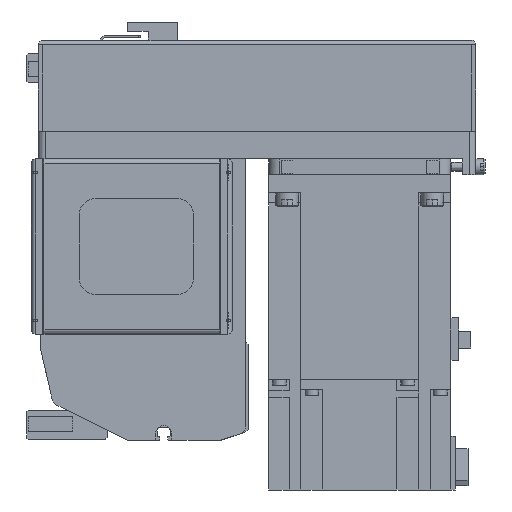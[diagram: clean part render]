
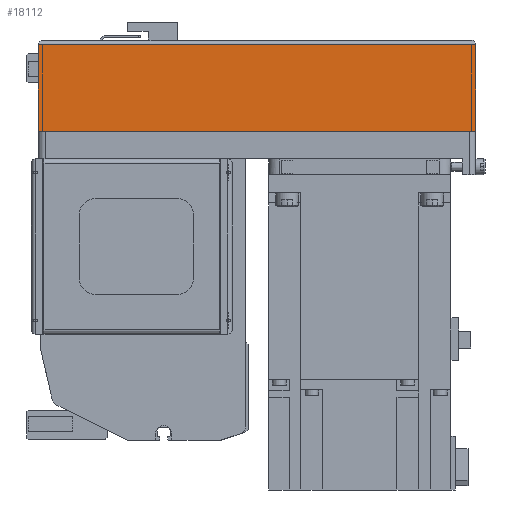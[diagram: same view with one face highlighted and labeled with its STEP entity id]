
A CAD part, left-side view. The second image highlights one B-rep face of the part: STEP entity #18112.
In plain terms, the highlighted planar face has unit normal (-1, 0, 0) as drawn and (0, -1, 0) by its records, which use the part's own axes.
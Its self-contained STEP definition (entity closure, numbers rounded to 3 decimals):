
#2838=ORIENTED_EDGE('',*,*,#7315,.F.);
#2839=ORIENTED_EDGE('',*,*,#7299,.F.);
#2840=ORIENTED_EDGE('',*,*,#7292,.T.);
#2841=ORIENTED_EDGE('',*,*,#7362,.T.);
#7292=EDGE_CURVE('',#9705,#9704,#11560,.T.);
#7299=EDGE_CURVE('',#9705,#9711,#11567,.T.);
#7315=EDGE_CURVE('',#9711,#9725,#11583,.T.);
#7362=EDGE_CURVE('',#9704,#9725,#11604,.T.);
#9704=VERTEX_POINT('',#27811);
#9705=VERTEX_POINT('',#27813);
#9711=VERTEX_POINT('',#27828);
#9725=VERTEX_POINT('',#27861);
#11560=LINE('',#27812,#13216);
#11567=LINE('',#27827,#13223);
#11583=LINE('',#27860,#13239);
#11604=LINE('',#27941,#13260);
#13216=VECTOR('',#22252,1000.);
#13223=VECTOR('',#22263,1000.);
#13239=VECTOR('',#22285,1000.);
#13260=VECTOR('',#22394,1000.);
#14734=EDGE_LOOP('',(#2838,#2839,#2840,#2841));
#16136=FACE_BOUND('',#14734,.T.);
#17369=PLANE('',#19423);
#18112=ADVANCED_FACE('',(#16136),#17369,.T.);
#19423=AXIS2_PLACEMENT_3D('',#27942,#22395,#22396);
#22252=DIRECTION('',(0.,0.,-1.));
#22263=DIRECTION('',(1.,0.,0.));
#22285=DIRECTION('',(0.,0.,-1.));
#22394=DIRECTION('',(1.,0.,0.));
#22395=DIRECTION('',(0.,-1.,0.));
#22396=DIRECTION('',(0.,0.,-1.));
#27811=CARTESIAN_POINT('',(-192.,-40.,-50.));
#27812=CARTESIAN_POINT('',(-192.,-40.,-12.1));
#27813=CARTESIAN_POINT('',(-192.,-40.,-12.1));
#27827=CARTESIAN_POINT('',(-192.,-40.,-12.1));
#27828=CARTESIAN_POINT('',(0.,-40.,-12.1));
#27860=CARTESIAN_POINT('',(0.,-40.,-12.1));
#27861=CARTESIAN_POINT('',(0.,-40.,-50.));
#27941=CARTESIAN_POINT('',(-192.,-40.,-50.));
#27942=CARTESIAN_POINT('',(-192.,-40.,-12.1));
